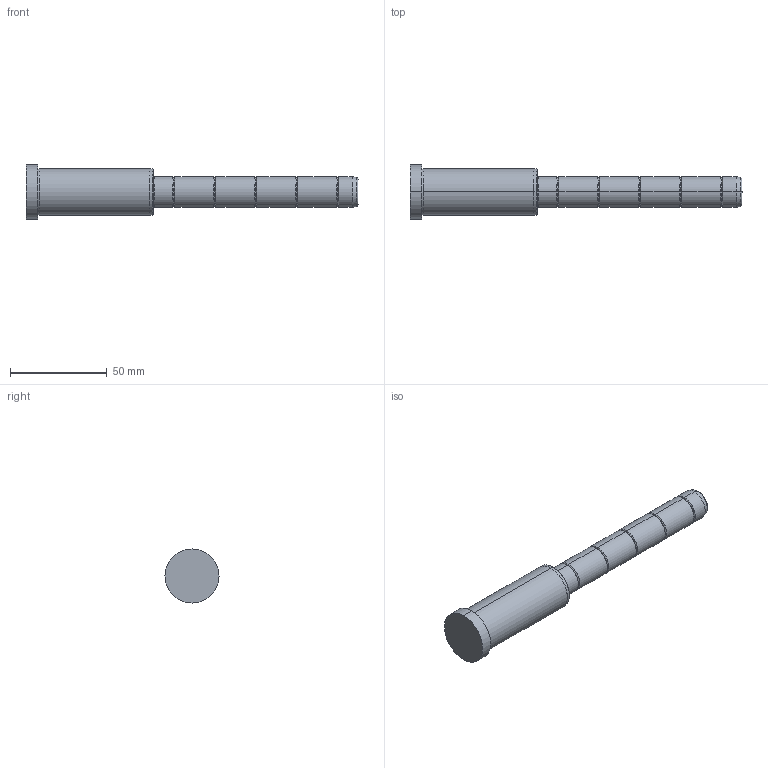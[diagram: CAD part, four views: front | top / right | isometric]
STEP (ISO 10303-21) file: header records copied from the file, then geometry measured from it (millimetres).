
FILE_DESCRIPTION( ( 'STEP AP203' ), '1' );
FILE_NAME( 'D:/Delta 3 D/D02/16/D02 - 16x66x106.step', '2003-01-04T13:07:31', ( ' ' ), ( ' ' ), 'XStep 1.0', ' ', ' ' );
FILE_SCHEMA( ( 'CONFIG_CONTROL_DESIGN' ) );
Length unit declared in the file: metre
Products named in the file (1): 1
Bounding box: 172 x 28 x 28 mm (x, y, z)
Volume: 52027.2 mm3; surface area: 11659.7 mm2
Topology: 1 solids, 1 shells, 54 faces, 106 edges, 58 vertices
Faces by surface type: bspline 30, revolution 24
Entity records: 1721 total; most frequent: CARTESIAN_POINT 717, ORIENTED_EDGE 212, DIRECTION 166, EDGE_CURVE 106, AXIS2_PLACEMENT_3D 59, EDGE_LOOP 58, VERTEX_POINT 58, CIRCLE 58
